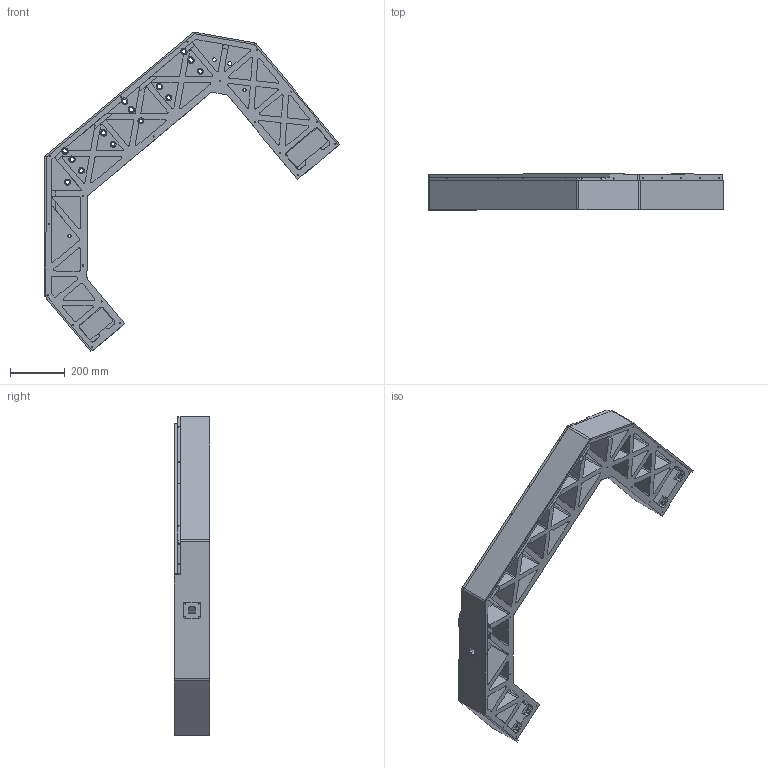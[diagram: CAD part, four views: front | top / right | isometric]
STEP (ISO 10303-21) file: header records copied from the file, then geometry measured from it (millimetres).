
FILE_DESCRIPTION (( 'STEP AP203' ), '1' );
FILE_NAME ('蹬楗.741364.033.STEP', '2025-09-19T08:55:58', ( '' ), ( '' ), 'SwSTEP 2.0', 'SolidWorks 2018', '' );
FILE_SCHEMA (( 'CONFIG_CONTROL_DESIGN' ));
Length unit declared in the file: millimetre
Products named in the file (1): 蹬楗.741364.033
Bounding box: 1076.42 x 130 x 1163.78 mm (x, y, z)
Volume: 28416301.5 mm3; surface area: 2161472.7 mm2
Topology: 1 solids, 2 shells, 753 faces, 1991 edges, 1331 vertices
Faces by surface type: cylinder 407, plane 346
Entity records: 23837 total; most frequent: DIRECTION 4332, CARTESIAN_POINT 4076, ORIENTED_EDGE 3982, EDGE_CURVE 1991, AXIS2_PLACEMENT_3D 1587, VERTEX_POINT 1331, VECTOR 1158, LINE 1158
